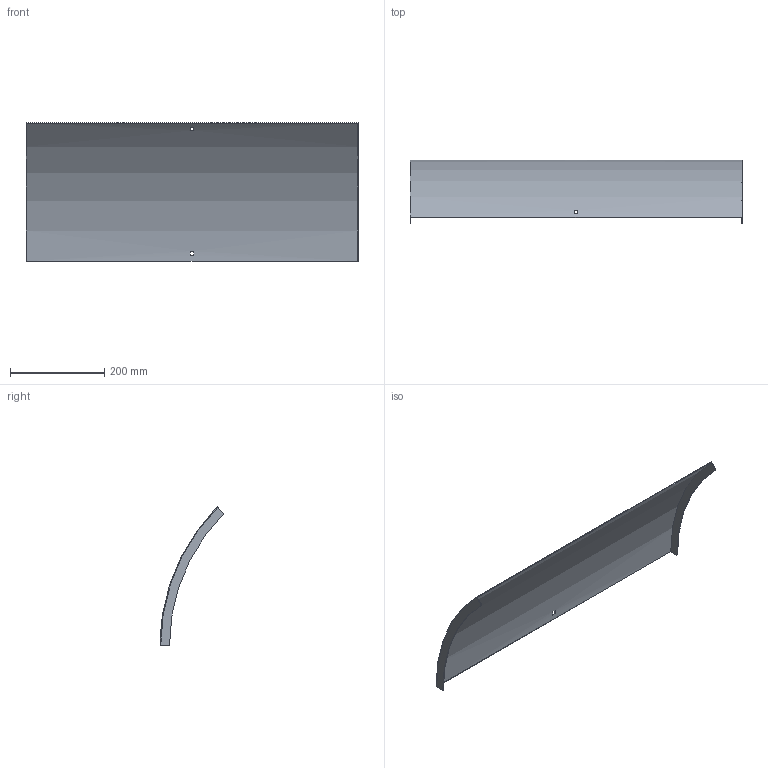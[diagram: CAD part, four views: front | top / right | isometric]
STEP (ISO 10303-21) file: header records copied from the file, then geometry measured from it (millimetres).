
FILE_DESCRIPTION (( 'STEP AP214' ), '1' );
FILE_NAME ('B2_34N3J700.step', '2025-02-21T10:37:14', ( '' ), ( '' ), 'SwSTEP 2.0', 'SolidWorks 2023', '' );
FILE_SCHEMA (( 'AUTOMOTIVE_DESIGN' ));
Length unit declared in the file: millimetre
Products named in the file (1): B2_34N3J700
Bounding box: 703 x 135.4 x 292.74 mm (x, y, z)
Volume: 359656.5 mm3; surface area: 482785.2 mm2
Topology: 1 solids, 1 shells, 18 faces, 48 edges, 32 vertices
Faces by surface type: plane 14, cylinder 4
Entity records: 599 total; most frequent: DIRECTION 102, CARTESIAN_POINT 99, ORIENTED_EDGE 96, EDGE_CURVE 48, AXIS2_PLACEMENT_3D 35, VECTOR 32, VERTEX_POINT 32, LINE 32
